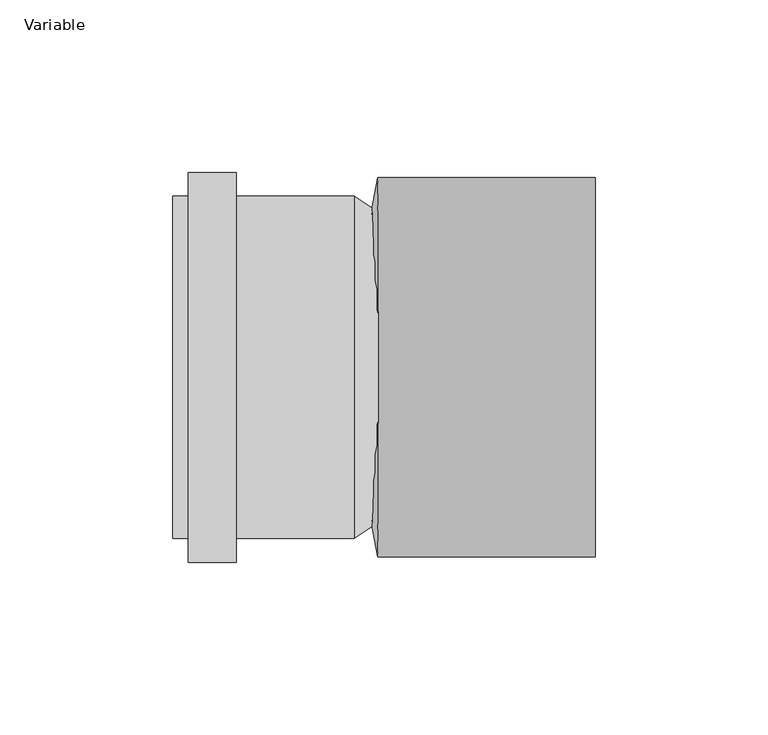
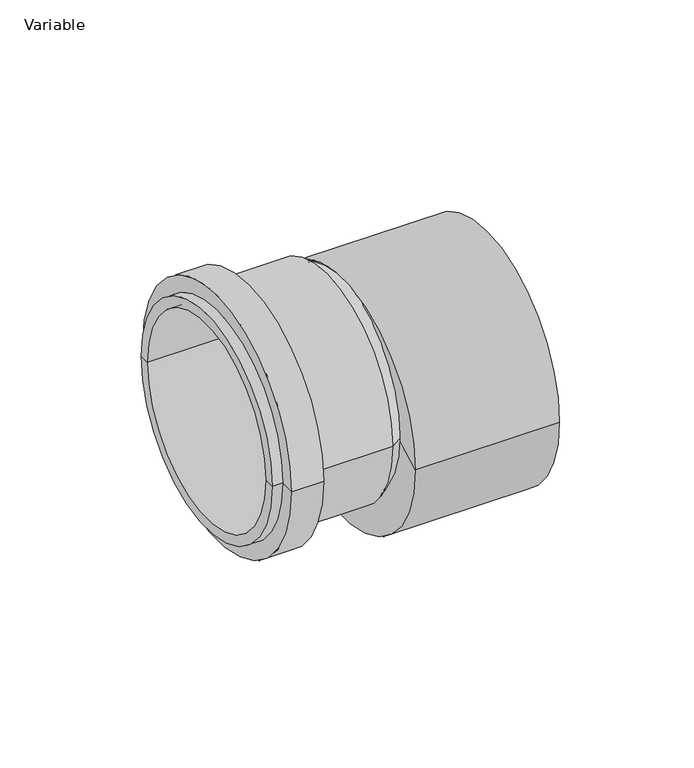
"""IFC4 building model written with IfcOpenShell, lengths in millimetres: pipe fitting geometry, AliaxisFR_Friaphon_Reducer_FR : Variable."""

from ifc_helpers import new_model, si_unit, point, frame, frame_2d, origin, origin_2d, place, context, project, spatial, polyline, circle_curve, trimmed, segment, composite_curve, outline, extrude, source, transform, mapped, element, save
from ifc_brep_helpers import plane_surface, cylinder_surface, revolved_surface, spline_surface, advanced_brep


def variable_dae65326(model_context):
    return source(origin(), model_context, "Body", "SolidModel", [
        advanced_brep(
        [(-88.75, -49.6, 0.0), (-88.75, 49.6, 0.0), (-88.75, 45.0, 0.0), (-88.75, -45.0, 0.0), (-70.25, -56.5, 0.0), (-70.25, 56.5, 0.0), (-84.15, 56.5, 0.0), (-84.15, -56.5, 0.0), (-70.25, -49.6, 0.0), (-70.25, 49.6, 0.0), (-36.05, -49.6, 0.0), (-36.05, 49.6, 0.0), (-29.15, 45.0, 0.0), (-29.15, -45.0, 0.0), (-84.15, -49.6, 0.0), (-84.15, 49.6, 0.0)],
        [
            (0, 1, circle_curve(frame((-88.75, 0.0, 0.0), z_axis=(-1.0, 0.0, 0.0), x_axis=(0.0, 1.0, 0.0)), 49.6)),
            (1, 2),
            (2, 3, circle_curve(frame((-88.75, 0.0, 0.0), z_axis=(1.0, 0.0, 0.0), x_axis=(0.0, 1.0, 0.0)), 45.0)),
            (3, 0),
            (1, 0, circle_curve(frame((-88.75, 0.0, 0.0), z_axis=(-1.0, 0.0, 0.0), x_axis=(0.0, 1.0, 0.0)), 49.6)),
            (3, 2, circle_curve(frame((-88.75, 0.0, 0.0), z_axis=(1.0, 0.0, 0.0), x_axis=(0.0, 1.0, 0.0)), 45.0)),
            (4, 5, circle_curve(frame((-70.25, 0.0, 0.0), z_axis=(-1.0, 0.0, 0.0), x_axis=(0.0, 1.0, 0.0)), 56.5)),
            (5, 6),
            (6, 7, circle_curve(frame((-84.15, 0.0, 0.0), z_axis=(1.0, 0.0, 0.0), x_axis=(0.0, 1.0, 0.0)), 56.5)),
            (7, 4),
            (5, 4, circle_curve(frame((-70.25, 0.0, 0.0), z_axis=(-1.0, 0.0, 0.0), x_axis=(0.0, 1.0, 0.0)), 56.5)),
            (7, 6, circle_curve(frame((-84.15, 0.0, 0.0), z_axis=(1.0, 0.0, 0.0), x_axis=(0.0, 1.0, 0.0)), 56.5)),
            (8, 9, circle_curve(frame((-70.25, 0.0, 0.0), z_axis=(-1.0, 0.0, 0.0), x_axis=(0.0, 1.0, 0.0)), 49.6)),
            (9, 5),
            (4, 8),
            (9, 8, circle_curve(frame((-70.25, 0.0, 0.0), z_axis=(-1.0, 0.0, 0.0), x_axis=(0.0, 1.0, 0.0)), 49.6)),
            (10, 11, circle_curve(frame((-36.05, 0.0, 0.0), z_axis=(-1.0, 0.0, 0.0), x_axis=(0.0, 1.0, 0.0)), 49.6)),
            (11, 9),
            (8, 10),
            (11, 10, circle_curve(frame((-36.05, 0.0, 0.0), z_axis=(-1.0, 0.0, 0.0), x_axis=(0.0, 1.0, 0.0)), 49.6)),
            (2, 12),
            (12, 13, circle_curve(frame((-29.15, 0.0, 0.0), z_axis=(1.0, 0.0, 0.0), x_axis=(0.0, 1.0, 0.0)), 45.0)),
            (13, 3),
            (13, 12, circle_curve(frame((-29.15, 0.0, 0.0), z_axis=(1.0, 0.0, 0.0), x_axis=(0.0, 1.0, 0.0)), 45.0)),
            (12, 11),
            (10, 13),
            (14, 15, circle_curve(frame((-84.15, 0.0, 0.0), z_axis=(-1.0, 0.0, 0.0), x_axis=(0.0, 1.0, 0.0)), 49.6)),
            (15, 1),
            (0, 14),
            (15, 14, circle_curve(frame((-84.15, 0.0, 0.0), z_axis=(-1.0, 0.0, 0.0), x_axis=(0.0, 1.0, 0.0)), 49.6)),
            (6, 15),
            (14, 7),
        ],
        [
            plane_surface(frame((-88.75, 0.0, 0.0), z_axis=(-1.0, 0.0, 0.0), x_axis=(0.0, 1.0, 0.0))),
            cylinder_surface(frame((-29.15, 0.0, 0.0), z_axis=(1.0, 0.0, 0.0), x_axis=(0.0, 1.0, 0.0)), 56.5),
            plane_surface(frame((-70.25, 0.0, 0.0), z_axis=(1.0, 0.0, 0.0), x_axis=(0.0, 1.0, 0.0))),
            cylinder_surface(frame((-29.15, 0.0, 0.0), z_axis=(1.0, 0.0, 0.0), x_axis=(0.0, 1.0, 0.0)), 49.6),
            revolved_surface(polyline([(-29.15, 45.0, 0.0), (-88.75, 45.0, 0.0)]), (-29.15, 0.0, 0.0), (1.0, 0.0, 0.0)),
            revolved_surface(polyline([(-36.05, 49.6, 0.0), (-29.15, 45.0, 0.0)]), (-29.15, 0.0, 0.0), (1.0, 0.0, 0.0)),
            plane_surface(frame((-84.15, 0.0, 0.0), z_axis=(-1.0, 0.0, 0.0), x_axis=(0.0, 1.0, 0.0))),
        ],
        [
            (0, [[1, 2, 3, 4]]),
            (0, [[5, -4, 6, -2]]),
            (1, [[7, 8, 9, 10]]),
            (1, [[11, -10, 12, -8]]),
            (2, [[13, 14, -7, 15]]),
            (2, [[16, -15, -11, -14]]),
            (3, [[17, 18, -13, 19]]),
            (3, [[20, -19, -16, -18]]),
            (4, [[-3, 21, 22, 23]]),
            (4, [[-6, -23, 24, -21]]),
            (5, [[-22, 25, -17, 26]]),
            (5, [[-24, -26, -20, -25]]),
            (3, [[27, 28, -1, 29]]),
            (3, [[30, -29, -5, -28]]),
            (6, [[-9, 31, -27, 32]]),
            (6, [[-12, -32, -30, -31]]),
        ],
    ),
        extrude(outline(composite_curve([segment(trimmed(circle_curve(origin_2d(), 45.0), [point((-45.0, 0.0))], [point((45.0, 0.0))], False, "CARTESIAN"), True, "CONTINUOUS"), segment(trimmed(circle_curve(origin_2d(), 45.0), [point((45.0, 0.0))], [point((-45.0, 0.0))], False, "CARTESIAN"), True, "CONTINUOUS")], self_intersect=False)), frame((-33.75, 0.0, 0.0), z_axis=(1.0, 0.0, 0.0), x_axis=(0.0, 1.0, 0.0)), (0.0, 0.0, 1.0), 2.5),
        advanced_brep(
        [(-31.25, -45.0, 0.0), (-31.25, 45.0, 0.0), (-29.25, -55.0, -10.0), (-29.25, 55.0, -10.0)],
        [
            (0, 1, circle_curve(frame((-31.25, 0.0, 0.0), z_axis=(-1.0, 0.0, 0.0), x_axis=(0.0, 1.0, 0.0)), 45.0)),
            (1, 0, circle_curve(frame((-31.25, 0.0, 0.0), z_axis=(-1.0, 0.0, 0.0), x_axis=(0.0, 1.0, 0.0)), 45.0)),
            (2, 3, circle_curve(frame((-29.25, 0.0, -10.0), z_axis=(1.0, 0.0, 0.0), x_axis=(0.0, 1.0, 0.0)), 55.0)),
            (3, 2, circle_curve(frame((-29.25, 0.0, -10.0), z_axis=(1.0, 0.0, 0.0), x_axis=(0.0, 1.0, 0.0)), 55.0)),
            (3, 1),
            (0, 2),
        ],
        [
            plane_surface(frame((-31.25, 0.0, 0.0), z_axis=(-1.0, 0.0, 0.0), x_axis=(0.0, 0.0, 1.0))),
            plane_surface(frame((-29.25, 0.0, -10.0), z_axis=(1.0, 0.0, 0.0), x_axis=(0.0, 0.0, 1.0))),
            spline_surface(2, 1, [[(-29.25, -55.0, -10.0), (-31.25, -45.0, 0.0)], [(-29.25, -55.0, 45.0), (-31.25, -45.0, 45.0)], [(-29.25, 0.0, 45.0), (-31.25, 0.0, 45.0)], [(-29.25, 55.0, 45.0), (-31.25, 45.0, 45.0)], [(-29.25, 55.0, -10.0), (-31.25, 45.0, 0.0)]], [3, 2, 3], [2, 2], [0.0, 1.0, 2.0], [0.0, 1.0], weights=[[1.0, 1.0], [0.7071067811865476, 0.7071067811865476], [1.0, 1.0], [0.7071067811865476, 0.7071067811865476], [1.0, 1.0]]),
            spline_surface(2, 1, [[(-29.25, 55.0, -10.0), (-31.25, 45.0, 0.0)], [(-29.25, 55.0, -65.0), (-31.25, 45.0, -45.0)], [(-29.25, 0.0, -65.0), (-31.25, 0.0, -45.0)], [(-29.25, -55.0, -65.0), (-31.25, -45.0, -45.0)], [(-29.25, -55.0, -10.0), (-31.25, -45.0, 0.0)]], [3, 2, 3], [2, 2], [0.0, 1.0, 2.0], [0.0, 1.0], weights=[[1.0, 1.0], [0.7071067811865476, 0.7071067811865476], [1.0, 1.0], [0.7071067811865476, 0.7071067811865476], [1.0, 1.0]]),
        ],
        [
            (0, [[1, 2]]),
            (1, [[3, 4]]),
            (2, [[-4, 5, -1, 6]]),
            (3, [[-3, -6, -2, -5]]),
        ],
    ),
        extrude(outline(composite_curve([segment(trimmed(circle_curve(frame_2d((0.0, -10.0)), 55.0), [point((-55.0, -10.0))], [point((55.0, -10.0))], False, "CARTESIAN"), True, "CONTINUOUS"), segment(trimmed(circle_curve(frame_2d((0.0, -10.0)), 55.0), [point((55.0, -10.0))], [point((-55.0, -10.0))], False, "CARTESIAN"), True, "CONTINUOUS")], self_intersect=False)), frame((-29.25, 0.0, 0.0), z_axis=(1.0, 0.0, 0.0), x_axis=(0.0, 1.0, 0.0)), (0.0, 0.0, 1.0), 63.0),
    ])


if __name__ == "__main__":
    model = new_model("IFC4")
    model_context = context("Model", 3, world=origin())
    ifc_project = project(units=[si_unit("LENGTHUNIT", "METRE", prefix="MILLI")], contexts=[model_context])
    site = spatial("IfcSite", under=ifc_project)
    building = spatial("IfcBuilding", under=site)
    placement = place(None, origin())
    variable_shape = variable_dae65326(model_context)
    element("IfcPipeFitting", 1, ObjectType="AliaxisFR_Friaphon_Reducer_FR : Variable", at=placement, inside=building, context=model_context, shape_type="MappedRepresentation", body=[
        mapped(variable_shape, transform((0.0, 0.0, 0.0), x_axis=(1.0, 0.0, 0.0), y_axis=(0.0, 1.0, 0.0), z_axis=(0.0, 0.0, 1.0))),
    ])
    save(model, "model.ifc")
